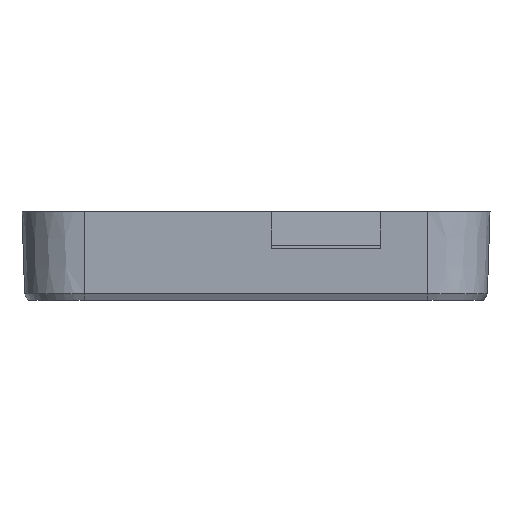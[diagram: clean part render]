
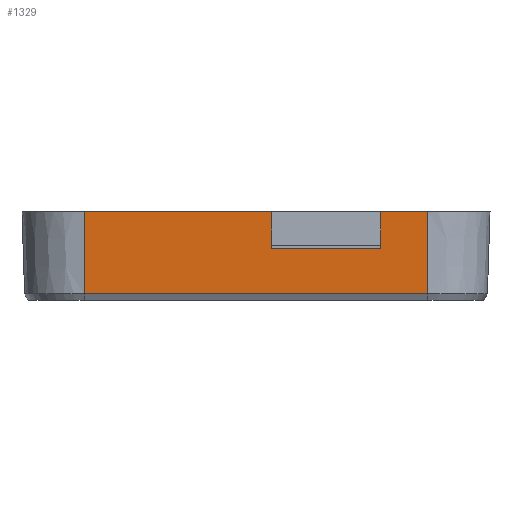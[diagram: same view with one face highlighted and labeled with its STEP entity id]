
A CAD part, left-side view. The second image highlights one B-rep face of the part: STEP entity #1329.
In plain terms, the highlighted planar face has unit normal (-1, 0, -0.032).
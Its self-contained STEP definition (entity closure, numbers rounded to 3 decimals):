
#33 = VERTEX_POINT('',#34);
#34 = CARTESIAN_POINT('',(-2.5,9.,1.2));
#398 = VERTEX_POINT('',#399);
#399 = CARTESIAN_POINT('',(-2.5,75.,1.2));
#404 = EDGE_CURVE('',#33,#398,#405,.T.);
#405 = LINE('',#406,#407);
#406 = CARTESIAN_POINT('',(-2.5,9.,1.2));
#407 = VECTOR('',#408,1.);
#408 = DIRECTION('',(-0.,1.,0.));
#420 = EDGE_CURVE('',#33,#421,#423,.T.);
#421 = VERTEX_POINT('',#422);
#422 = CARTESIAN_POINT('',(-3.,9.,17.));
#423 = B_SPLINE_CURVE_WITH_KNOTS('',1,(#424,#425),.UNSPECIFIED.,.F.,.F.,
  (2,2),(0.,1.),.PIECEWISE_BEZIER_KNOTS.);
#424 = CARTESIAN_POINT('',(-2.5,9.,1.2));
#425 = CARTESIAN_POINT('',(-3.,9.,17.));
#1329 = ADVANCED_FACE('',(#1330),#1379,.F.);
#1330 = FACE_BOUND('',#1331,.F.);
#1331 = EDGE_LOOP('',(#1332,#1333,#1334,#1341,#1349,#1357,#1365,#1373));
#1332 = ORIENTED_EDGE('',*,*,#420,.F.);
#1333 = ORIENTED_EDGE('',*,*,#404,.T.);
#1334 = ORIENTED_EDGE('',*,*,#1335,.T.);
#1335 = EDGE_CURVE('',#398,#1336,#1338,.T.);
#1336 = VERTEX_POINT('',#1337);
#1337 = CARTESIAN_POINT('',(-3.,75.,17.));
#1338 = B_SPLINE_CURVE_WITH_KNOTS('',1,(#1339,#1340),.UNSPECIFIED.,.F.,
  .F.,(2,2),(0.,1.),.PIECEWISE_BEZIER_KNOTS.);
#1339 = CARTESIAN_POINT('',(-2.5,75.,1.2));
#1340 = CARTESIAN_POINT('',(-3.,75.,17.));
#1341 = ORIENTED_EDGE('',*,*,#1342,.F.);
#1342 = EDGE_CURVE('',#1343,#1336,#1345,.T.);
#1343 = VERTEX_POINT('',#1344);
#1344 = CARTESIAN_POINT('',(-3.,39.,17.));
#1345 = LINE('',#1346,#1347);
#1346 = CARTESIAN_POINT('',(-3.,9.,17.));
#1347 = VECTOR('',#1348,1.);
#1348 = DIRECTION('',(-0.,1.,0.));
#1349 = ORIENTED_EDGE('',*,*,#1350,.F.);
#1350 = EDGE_CURVE('',#1351,#1343,#1353,.T.);
#1351 = VERTEX_POINT('',#1352);
#1352 = CARTESIAN_POINT('',(-2.778,39.,10.));
#1353 = LINE('',#1354,#1355);
#1354 = CARTESIAN_POINT('',(-2.89,39.,13.535));
#1355 = VECTOR('',#1356,1.);
#1356 = DIRECTION('',(-0.032,-0.,0.999));
#1357 = ORIENTED_EDGE('',*,*,#1358,.T.);
#1358 = EDGE_CURVE('',#1351,#1359,#1361,.T.);
#1359 = VERTEX_POINT('',#1360);
#1360 = CARTESIAN_POINT('',(-2.778,18.,10.));
#1361 = LINE('',#1362,#1363);
#1362 = CARTESIAN_POINT('',(-2.778,13.5,10.));
#1363 = VECTOR('',#1364,1.);
#1364 = DIRECTION('',(0.,-1.,0.));
#1365 = ORIENTED_EDGE('',*,*,#1366,.T.);
#1366 = EDGE_CURVE('',#1359,#1367,#1369,.T.);
#1367 = VERTEX_POINT('',#1368);
#1368 = CARTESIAN_POINT('',(-3.,18.,17.));
#1369 = LINE('',#1370,#1371);
#1370 = CARTESIAN_POINT('',(-2.89,18.,13.535));
#1371 = VECTOR('',#1372,1.);
#1372 = DIRECTION('',(-0.032,-0.,0.999));
#1373 = ORIENTED_EDGE('',*,*,#1374,.F.);
#1374 = EDGE_CURVE('',#421,#1367,#1375,.T.);
#1375 = LINE('',#1376,#1377);
#1376 = CARTESIAN_POINT('',(-3.,9.,17.));
#1377 = VECTOR('',#1378,1.);
#1378 = DIRECTION('',(-0.,1.,0.));
#1379 = PLANE('',#1380);
#1380 = AXIS2_PLACEMENT_3D('',#1381,#1382,#1383);
#1381 = CARTESIAN_POINT('',(-3.,9.,17.));
#1382 = DIRECTION('',(0.999,0.,0.032));
#1383 = DIRECTION('',(-0.,1.,0.));
